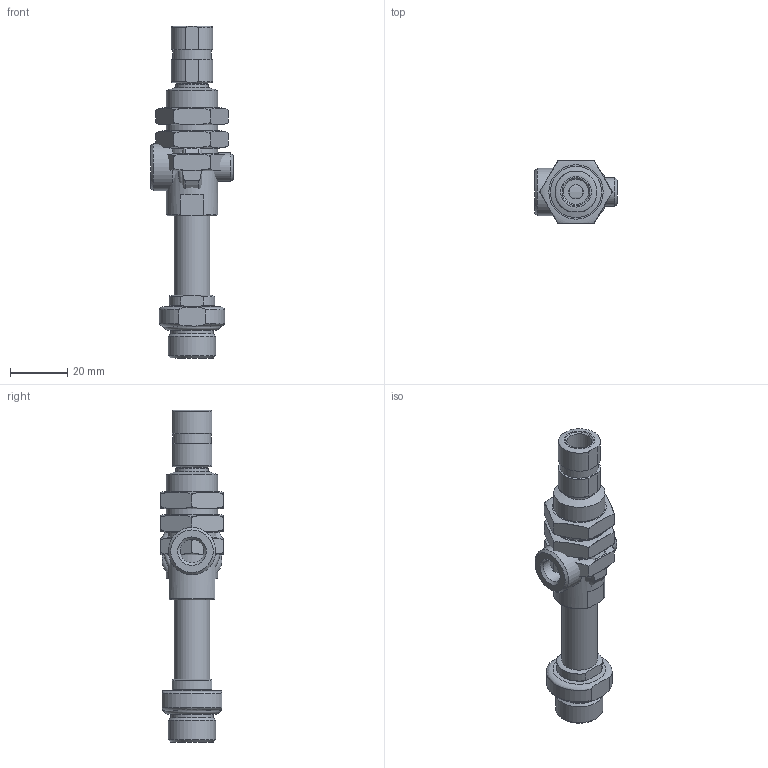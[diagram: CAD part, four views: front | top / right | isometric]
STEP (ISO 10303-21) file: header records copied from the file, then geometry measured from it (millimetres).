
FILE_DESCRIPTION( ( 'Unknown' ), '1' );
FILE_NAME( 'C:/Documents and Settings/Owner/官帕 拳搁/诀公楷遏_(Level Spring Stroke)/L3830TS.stp', 'Unknown', ( 'Unknown' ), ( 'Unknown' ), 'PSStep 10.0', 'Unknown', ' ' );
FILE_SCHEMA( ( 'AUTOMOTIVE_DESIGN { 1 0 10303 214 1 1 1 1 }' ) );
Length unit declared in the file: millimetre
Products named in the file (3): Assem1; LM1030TS; 38F
Bounding box: 29 x 22 x 116.4 mm (x, y, z)
Surface area: 22591.8 mm2 (no closed solid volume)
Topology: 0 solids, 196 shells, 196 faces, 784 edges, 698 vertices
Faces by surface type: plane 90, cylinder 50, cone 30, revolution 24, torus 2
Full cylindrical faces by diameter (mm): 5 x2, 6 x2, 8.29 x4, 8.376 x2, 8.8 x2, 10 x4, 11.5 x2, 12.5 x2, 13.5 x2, 14.9 x2, 16.6 x2, 18 x8
Entity records: 7448 total; most frequent: CARTESIAN_POINT 3853, DIRECTION 562, ORIENTED_EDGE 340, EDGE_CURVE 340, VERTEX_POINT 340, AXIS2_PLACEMENT_3D 233, FACE_BOUND 156, EDGE_LOOP 156
